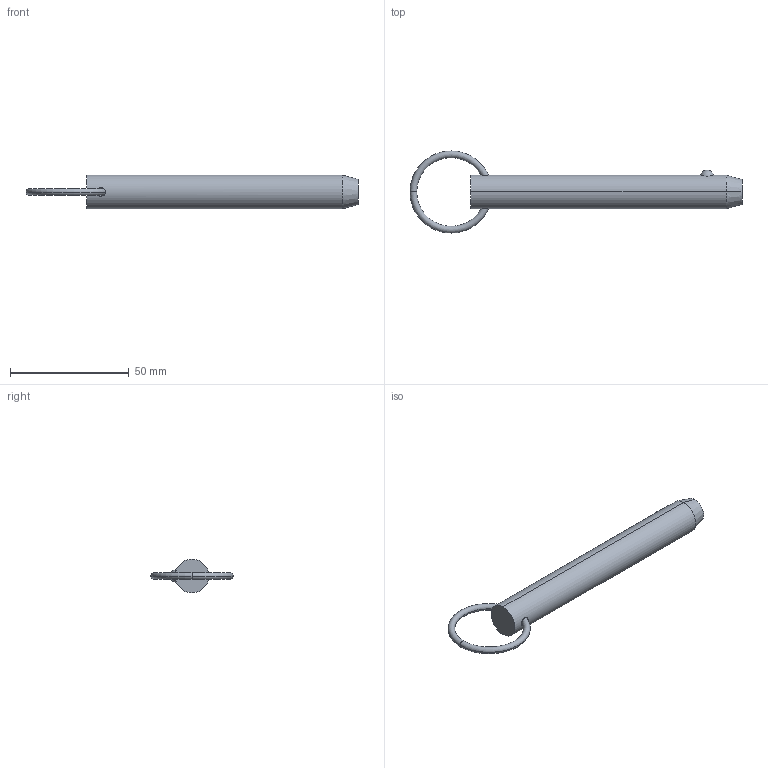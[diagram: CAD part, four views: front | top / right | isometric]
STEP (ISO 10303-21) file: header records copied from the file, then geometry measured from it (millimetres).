
FILE_DESCRIPTION (( 'STEP AP203' ), '1' );
FILE_NAME ('Default.step', '2024-11-01T10:39:23', ( '' ), ( '' ), 'SwSTEP 2.0', 'SolidWorks 2019', '' );
FILE_SCHEMA (( 'CONFIG_CONTROL_DESIGN' ));
Length unit declared in the file: millimetre
Products named in the file (3): Part2; Default; Part1
Assembly tree (2 placements, depth 2):
  Default
    Part1
    Part2
Bounding box: 139.8 x 34.59 x 14.22 mm (x, y, z)
Volume: 18426.9 mm3; surface area: 6373.2 mm2
Topology: 2 solids, 2 shells, 16 faces, 31 edges, 18 vertices
Faces by surface type: torus 8, sphere 2, cone 2, cylinder 2, plane 2
Entity records: 875 total; most frequent: CARTESIAN_POINT 232, DIRECTION 88, ORIENTED_EDGE 62, AXIS2_PLACEMENT_3D 42, EDGE_CURVE 31, PERSON_AND_ORGANIZATION 26, CIRCLE 21, CALENDAR_DATE 19
